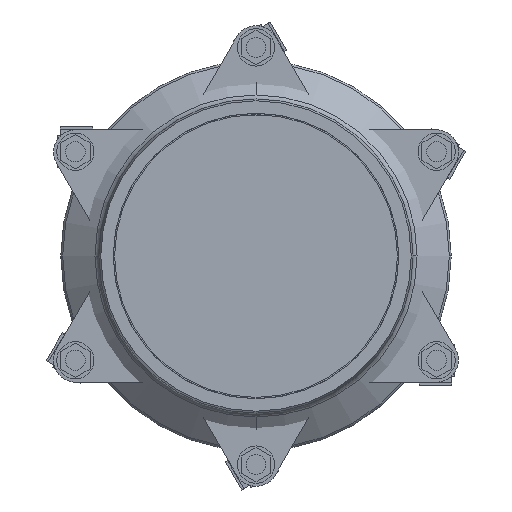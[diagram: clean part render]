
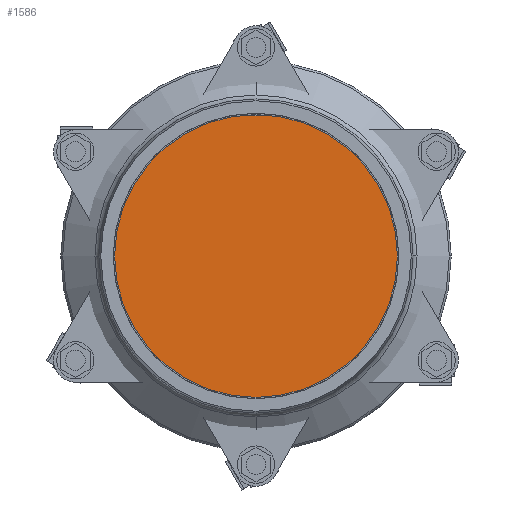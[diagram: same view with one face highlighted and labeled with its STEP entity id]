
A CAD part, left-side view. The second image highlights one B-rep face of the part: STEP entity #1586.
In plain terms, the highlighted planar face has unit normal (-1, 0, 0).
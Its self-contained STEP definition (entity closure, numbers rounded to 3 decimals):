
#1586=ADVANCED_FACE('',(#2970),#2971,.T.);
#2970=FACE_OUTER_BOUND('',#4567,.T.);
#2971=PLANE('',#4568);
#4567=EDGE_LOOP('',(#7275,#7276));
#4568=AXIS2_PLACEMENT_3D('',#7277,#7278,#7279);
#7275=ORIENTED_EDGE('',*,*,#8544,.T.);
#7276=ORIENTED_EDGE('',*,*,#9317,.T.);
#7277=CARTESIAN_POINT('',(113.5,0.0,0.));
#7278=DIRECTION('',(-1.0,0.0,0.));
#7279=DIRECTION('',(0.,0.0,-1.0));
#8544=EDGE_CURVE('',#9936,#9940,#9942,.T.);
#9317=EDGE_CURVE('',#9940,#9936,#11145,.T.);
#9936=VERTEX_POINT('',#11945);
#9940=VERTEX_POINT('',#11950);
#9942=CIRCLE('',#11953,128.0);
#11145=CIRCLE('',#13872,128.0);
#11945=CARTESIAN_POINT('',(113.5,0.0,-128.0));
#11950=CARTESIAN_POINT('',(113.5,0.,128.0));
#11953=AXIS2_PLACEMENT_3D('',#14769,#14770,#14771);
#13872=AXIS2_PLACEMENT_3D('',#15627,#15628,#15629);
#14769=CARTESIAN_POINT('',(113.5,0.0,0.));
#14770=DIRECTION('',(-1.0,0.0,0.));
#14771=DIRECTION('',(0.,0.0,-1.0));
#15627=CARTESIAN_POINT('',(113.5,0.0,0.));
#15628=DIRECTION('',(-1.0,0.0,0.));
#15629=DIRECTION('',(0.,0.0,-1.0));
